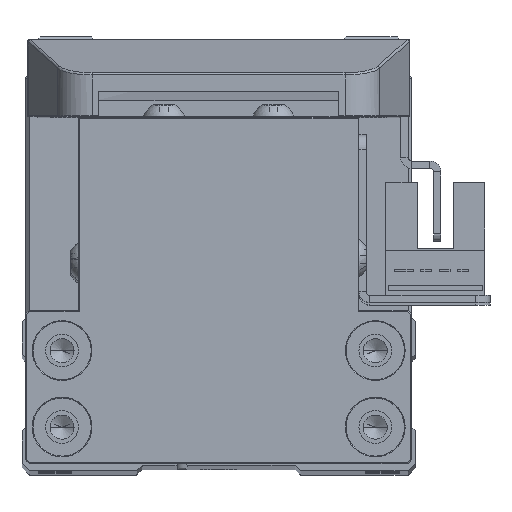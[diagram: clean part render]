
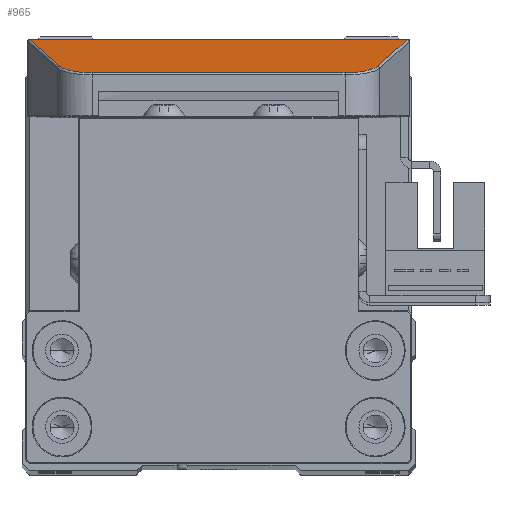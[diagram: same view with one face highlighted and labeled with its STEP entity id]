
A CAD part, top view. The second image highlights one B-rep face of the part: STEP entity #965.
In plain terms, the highlighted planar face has unit normal (0, 0.962, 0.274) as drawn and (0, 0.274, 0.962) by its records, which use the part's own axes.
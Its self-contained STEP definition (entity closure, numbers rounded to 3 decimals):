
#95 = ORIENTED_EDGE ( 'NONE', *, *, #13961, .T. ) ;
#514 = CARTESIAN_POINT ( 'NONE',  ( -43.406, 25.5, -4.7 ) ) ;
#811 = ORIENTED_EDGE ( 'NONE', *, *, #8431, .T. ) ;
#965 = ADVANCED_FACE ( 'NONE', ( #23062 ), #14994, .F. ) ;
#968 = EDGE_CURVE ( 'NONE', #12418, #12482, #14778, .T. ) ;
#2185 = CARTESIAN_POINT ( 'NONE',  ( 19.466, 25.282, -4.638 ) ) ;
#2351 = ORIENTED_EDGE ( 'NONE', *, *, #2731, .T. ) ;
#2707 = CARTESIAN_POINT ( 'NONE',  ( -21.179, 24.03, -4.281 ) ) ;
#2718 = CARTESIAN_POINT ( 'NONE',  ( 17.344, 25.282, -4.638 ) ) ;
#2731 = EDGE_CURVE ( 'NONE', #3432, #6953, #25982, .T. ) ;
#2952 = DIRECTION ( 'NONE',  ( 0., 0.962, -0.274 ) ) ;
#3432 = VERTEX_POINT ( 'NONE', #2718 ) ;
#3703 = VECTOR ( 'NONE', #27919, 1000. ) ;
#4036 = VERTEX_POINT ( 'NONE', #28797 ) ;
#4806 = LINE ( 'NONE', #25368, #29021 ) ;
#5344 = ORIENTED_EDGE ( 'NONE', *, *, #968, .T. ) ;
#5384 = CARTESIAN_POINT ( 'NONE',  ( -25.872, 9.281, -0.08 ) ) ;
#6941 = CARTESIAN_POINT ( 'NONE',  ( -17.344, 25.282, -4.638 ) ) ;
#6953 = VERTEX_POINT ( 'NONE', #6941 ) ;
#7374 = VECTOR ( 'NONE', #24687, 1000. ) ;
#8431 = EDGE_CURVE ( 'NONE', #27202, #26663, #23776, .T. ) ;
#8557 = ORIENTED_EDGE ( 'NONE', *, *, #24748, .T. ) ;
#9332 = CARTESIAN_POINT ( 'NONE',  ( 21.823, 22.007, -3.705 ) ) ;
#11788 = ORIENTED_EDGE ( 'NONE', *, *, #15308, .T. ) ;
#12371 = CARTESIAN_POINT ( 'NONE',  ( 25.874, 9.275, -0.078 ) ) ;
#12418 = VERTEX_POINT ( 'NONE', #14172 ) ;
#12482 = VERTEX_POINT ( 'NONE', #16829 ) ;
#13961 = EDGE_CURVE ( 'NONE', #12482, #27954, #26720, .T. ) ;
#14125 =( BOUNDED_CURVE ( )  B_SPLINE_CURVE ( 3, ( #9332, #23878, #2185, #19102 ),
 .UNSPECIFIED., .F., .F. ) 
 B_SPLINE_CURVE_WITH_KNOTS ( ( 4, 4 ),
 ( 5.02, 6.283 ),
 .UNSPECIFIED. ) 
 CURVE ( )  GEOMETRIC_REPRESENTATION_ITEM ( )  RATIONAL_B_SPLINE_CURVE ( ( 1., 0.871, 0.871, 1. ) ) 
 REPRESENTATION_ITEM ( '' )  );
#14143 =( BOUNDED_CURVE ( )  B_SPLINE_CURVE ( 3, ( #22061, #12371, #29363, #14841 ),
 .UNSPECIFIED., .F., .F. ) 
 B_SPLINE_CURVE_WITH_KNOTS ( ( 4, 4 ),
 ( 5.009, 5.02 ),
 .UNSPECIFIED. ) 
 CURVE ( )  GEOMETRIC_REPRESENTATION_ITEM ( )  RATIONAL_B_SPLINE_CURVE ( ( 1., 1., 1., 1. ) ) 
 REPRESENTATION_ITEM ( '' )  );
#14172 = CARTESIAN_POINT ( 'NONE',  ( -25.87, 9.287, -0.082 ) ) ;
#14724 = CARTESIAN_POINT ( 'NONE',  ( 25.87, 9.287, -0.082 ) ) ;
#14734 = CARTESIAN_POINT ( 'NONE',  ( -19.466, 25.282, -4.638 ) ) ;
#14778 =( BOUNDED_CURVE ( )  B_SPLINE_CURVE ( 3, ( #22309, #5384, #19868, #24746 ),
 .UNSPECIFIED., .F., .T. ) 
 B_SPLINE_CURVE_WITH_KNOTS ( ( 4, 4 ),
 ( 1.263, 1.274 ),
 .UNSPECIFIED. ) 
 CURVE ( )  GEOMETRIC_REPRESENTATION_ITEM ( )  RATIONAL_B_SPLINE_CURVE ( ( 1., 1., 1., 1. ) ) 
 REPRESENTATION_ITEM ( '' )  );
#14841 = CARTESIAN_POINT ( 'NONE',  ( 25.87, 9.287, -0.082 ) ) ;
#14994 = PLANE ( 'NONE',  #24979 ) ;
#15190 = CARTESIAN_POINT ( 'NONE',  ( 21.823, 22.007, -3.705 ) ) ;
#15308 = EDGE_CURVE ( 'NONE', #6953, #4036, #28437, .T. ) ;
#15397 = CARTESIAN_POINT ( 'NONE',  ( -17.344, 25.282, -4.638 ) ) ;
#16815 = ORIENTED_EDGE ( 'NONE', *, *, #29862, .T. ) ;
#16829 = CARTESIAN_POINT ( 'NONE',  ( -25.876, 9.269, -0.077 ) ) ;
#17052 = CARTESIAN_POINT ( 'NONE',  ( -17.344, 25.282, -4.638 ) ) ;
#17406 = DIRECTION ( 'NONE',  ( 0., -0.274, -0.962 ) ) ;
#19102 = CARTESIAN_POINT ( 'NONE',  ( 17.344, 25.282, -4.638 ) ) ;
#19623 = CARTESIAN_POINT ( 'NONE',  ( -21.823, 22.007, -3.705 ) ) ;
#19743 = EDGE_LOOP ( 'NONE', ( #95, #16815, #811, #21463, #2351, #11788, #8557, #5344 ) ) ;
#19868 = CARTESIAN_POINT ( 'NONE',  ( -25.874, 9.275, -0.078 ) ) ;
#21463 = ORIENTED_EDGE ( 'NONE', *, *, #21529, .T. ) ;
#21529 = EDGE_CURVE ( 'NONE', #26663, #3432, #14125, .T. ) ;
#22061 = CARTESIAN_POINT ( 'NONE',  ( 25.876, 9.269, -0.077 ) ) ;
#22309 = CARTESIAN_POINT ( 'NONE',  ( -25.87, 9.287, -0.082 ) ) ;
#23062 = FACE_OUTER_BOUND ( 'NONE', #19743, .T. ) ;
#23776 = LINE ( 'NONE', #30357, #3703 ) ;
#23786 = DIRECTION ( 'NONE',  ( -1., 0., 0. ) ) ;
#23878 = CARTESIAN_POINT ( 'NONE',  ( 21.179, 24.03, -4.281 ) ) ;
#24687 = DIRECTION ( 'NONE',  ( 1., 0., 0. ) ) ;
#24746 = CARTESIAN_POINT ( 'NONE',  ( -25.876, 9.269, -0.077 ) ) ;
#24748 = EDGE_CURVE ( 'NONE', #4036, #12418, #4806, .T. ) ;
#24979 = AXIS2_PLACEMENT_3D ( 'NONE', #514, #17406, #2952 ) ;
#25368 = CARTESIAN_POINT ( 'NONE',  ( -22.655, 19.393, -2.96 ) ) ;
#25982 = LINE ( 'NONE', #15397, #27507 ) ;
#26663 = VERTEX_POINT ( 'NONE', #15190 ) ;
#26720 = LINE ( 'NONE', #27113, #7374 ) ;
#27113 = CARTESIAN_POINT ( 'NONE',  ( 26.25, 9.269, -0.077 ) ) ;
#27202 = VERTEX_POINT ( 'NONE', #14724 ) ;
#27507 = VECTOR ( 'NONE', #23786, 1000. ) ;
#27798 = DIRECTION ( 'NONE',  ( -0.293, -0.92, 0.262 ) ) ;
#27919 = DIRECTION ( 'NONE',  ( -0.293, 0.92, -0.262 ) ) ;
#27954 = VERTEX_POINT ( 'NONE', #29923 ) ;
#28437 =( BOUNDED_CURVE ( )  B_SPLINE_CURVE ( 3, ( #17052, #14734, #2707, #19623 ),
 .UNSPECIFIED., .F., .F. ) 
 B_SPLINE_CURVE_WITH_KNOTS ( ( 4, 4 ),
 ( 0., 1.263 ),
 .UNSPECIFIED. ) 
 CURVE ( )  GEOMETRIC_REPRESENTATION_ITEM ( )  RATIONAL_B_SPLINE_CURVE ( ( 1., 0.871, 0.871, 1. ) ) 
 REPRESENTATION_ITEM ( '' )  );
#28797 = CARTESIAN_POINT ( 'NONE',  ( -21.823, 22.007, -3.705 ) ) ;
#29021 = VECTOR ( 'NONE', #27798, 1000. ) ;
#29363 = CARTESIAN_POINT ( 'NONE',  ( 25.872, 9.281, -0.08 ) ) ;
#29862 = EDGE_CURVE ( 'NONE', #27954, #27202, #14143, .T. ) ;
#29923 = CARTESIAN_POINT ( 'NONE',  ( 25.876, 9.269, -0.077 ) ) ;
#30357 = CARTESIAN_POINT ( 'NONE',  ( 15.221, 42.754, -9.615 ) ) ;
